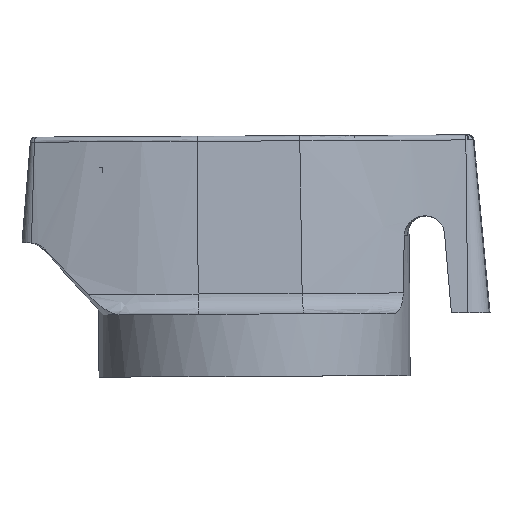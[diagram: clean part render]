
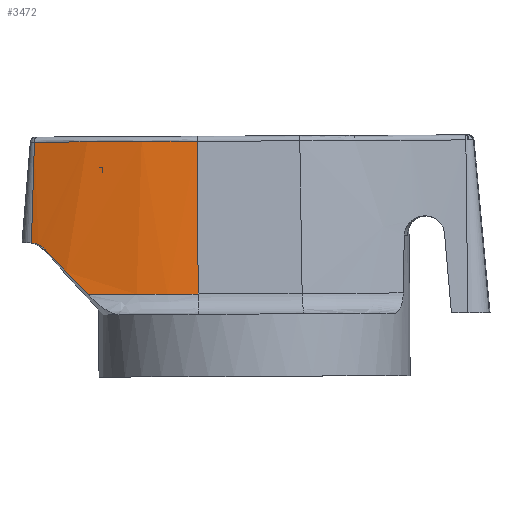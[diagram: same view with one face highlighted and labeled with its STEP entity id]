
A CAD part, left-side view. The second image highlights one B-rep face of the part: STEP entity #3472.
In plain terms, the highlighted free-form (B-spline) face has degree [1, 3] with [2, 9] control points.
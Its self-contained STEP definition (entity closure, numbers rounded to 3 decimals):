
#58 = CARTESIAN_POINT ( 'NONE',  ( -19.099, -2.641, 11.806 ) ) ;
#155 = VERTEX_POINT ( 'NONE', #3368 ) ;
#183 = CARTESIAN_POINT ( 'NONE',  ( -5.01, -4.583, 18.629 ) ) ;
#190 = CARTESIAN_POINT ( 'NONE',  ( -14.918, -3.161, 21.144 ) ) ;
#216 = CARTESIAN_POINT ( 'NONE',  ( -5.838, -5.573, 7.426 ) ) ;
#329 = CARTESIAN_POINT ( 'NONE',  ( -4.951, -5.726, 5.558 ) ) ;
#351 = CARTESIAN_POINT ( 'NONE',  ( -4.898, -5.725, 5.558 ) ) ;
#370 = VERTEX_POINT ( 'NONE', #3719 ) ;
#374 = CARTESIAN_POINT ( 'NONE',  ( -7.53, -4.07, 24.842 ) ) ;
#412 = EDGE_CURVE ( 'NONE', #2731, #155, #2199, .T. ) ;
#484 = CARTESIAN_POINT ( 'NONE',  ( -19.662, -1.575, 20.72 ) ) ;
#741 = B_SPLINE_CURVE_WITH_KNOTS ( 'NONE', 3,
 ( #1048, #3093, #6010, #2036, #58, #6080, #4516, #1515 ),
 .UNSPECIFIED., .F., .F.,
 ( 4, 2, 2, 4 ),
 ( 0., 0.001, 0.001, 0.001 ),
 .UNSPECIFIED. ) ;
#743 = CARTESIAN_POINT ( 'NONE',  ( -5.012, -4.363, 21.144 ) ) ;
#802 = CARTESIAN_POINT ( 'NONE',  ( -17.495, -3.4, 10.136 ) ) ;
#808 = CARTESIAN_POINT ( 'NONE',  ( -10.036, -3.842, 24.842 ) ) ;
#892 = CARTESIAN_POINT ( 'NONE',  ( -5.003, -5.726, 5.558 ) ) ;
#987 = CARTESIAN_POINT ( 'NONE',  ( -19.772, -1.825, 17.6 ) ) ;
#1048 = CARTESIAN_POINT ( 'NONE',  ( -19.964, -2.267, 12.094 ) ) ;
#1095 = B_SPLINE_SURFACE_WITH_KNOTS ( 'NONE', 1, 3, ( 
 ( #5912, #5828, #1900, #3809, #1843, #892, #329, #351, #5415 ),
 ( #3375, #2338, #4358, #808, #374, #4905, #4379, #3357, #2845 ) ),
 .UNSPECIFIED., .F., .F., .F.,
 ( 2, 2 ),
 ( 4, 2, 3, 4 ),
 ( 0., 1. ),
 ( 0., 0.5, 1., 1.01 ),
 .UNSPECIFIED. ) ;
#1155 = CARTESIAN_POINT ( 'NONE',  ( -19.647, -1.541, 21.144 ) ) ;
#1189 = CARTESIAN_POINT ( 'NONE',  ( -9.164, -5.396, 7.426 ) ) ;
#1208 = CARTESIAN_POINT ( 'NONE',  ( -8.333, -5.467, 7.426 ) ) ;
#1237 = B_SPLINE_CURVE_WITH_KNOTS ( 'NONE', 3,
 ( #2538, #5996, #484, #2000, #3986, #987, #2494, #4482, #6018, #3005 ),
 .UNSPECIFIED., .F., .F.,
 ( 4, 3, 3, 4 ),
 ( 0., 0.001, 0.005, 0.01 ),
 .UNSPECIFIED. ) ;
#1252 = CARTESIAN_POINT ( 'NONE',  ( -17.31, -2.442, 21.144 ) ) ;
#1265 = EDGE_CURVE ( 'NONE', #1295, #5243, #1237, .T. ) ;
#1295 = VERTEX_POINT ( 'NONE', #1155 ) ;
#1316 = CARTESIAN_POINT ( 'NONE',  ( -18.743, -2.805, 11.501 ) ) ;
#1515 = CARTESIAN_POINT ( 'NONE',  ( -18.743, -2.805, 11.501 ) ) ;
#1626 = CARTESIAN_POINT ( 'NONE',  ( -14.901, -4.383, 7.426 ) ) ;
#1728 = EDGE_CURVE ( 'NONE', #4140, #155, #6359, .T. ) ;
#1786 = CARTESIAN_POINT ( 'NONE',  ( -5.008, -5.023, 13.6 ) ) ;
#1843 = CARTESIAN_POINT ( 'NONE',  ( -7.624, -5.758, 5.558 ) ) ;
#1900 = CARTESIAN_POINT ( 'NONE',  ( -15.348, -4.527, 5.558 ) ) ;
#2000 = CARTESIAN_POINT ( 'NONE',  ( -19.67, -1.592, 20.509 ) ) ;
#2036 = CARTESIAN_POINT ( 'NONE',  ( -19.201, -2.596, 11.866 ) ) ;
#2126 = CARTESIAN_POINT ( 'NONE',  ( -5.004, -5.563, 7.426 ) ) ;
#2199 = B_SPLINE_CURVE_WITH_KNOTS ( 'NONE', 3,
 ( #2262, #183, #3676, #1786, #6365, #4307, #2369 ),
 .UNSPECIFIED., .F., .F.,
 ( 4, 3, 4 ),
 ( 0., 0.008, 0.014 ),
 .UNSPECIFIED. ) ;
#2262 = CARTESIAN_POINT ( 'NONE',  ( -5.012, -4.363, 21.144 ) ) ;
#2338 = CARTESIAN_POINT ( 'NONE',  ( -17.287, -2.172, 24.842 ) ) ;
#2362 = CARTESIAN_POINT ( 'NONE',  ( -14.901, -4.383, 7.426 ) ) ;
#2369 = CARTESIAN_POINT ( 'NONE',  ( -5.004, -5.563, 7.426 ) ) ;
#2494 = CARTESIAN_POINT ( 'NONE',  ( -19.823, -1.941, 16.145 ) ) ;
#2538 = CARTESIAN_POINT ( 'NONE',  ( -19.647, -1.541, 21.144 ) ) ;
#2624 = CARTESIAN_POINT ( 'NONE',  ( -13.285, -4.795, 7.426 ) ) ;
#2731 = VERTEX_POINT ( 'NONE', #4029 ) ;
#2759 = CARTESIAN_POINT ( 'NONE',  ( -7.516, -4.393, 21.144 ) ) ;
#2779 = CARTESIAN_POINT ( 'NONE',  ( -14.901, -4.383, 7.426 ) ) ;
#2845 = CARTESIAN_POINT ( 'NONE',  ( -4.873, -4.037, 24.842 ) ) ;
#3005 = CARTESIAN_POINT ( 'NONE',  ( -19.964, -2.267, 12.094 ) ) ;
#3093 = CARTESIAN_POINT ( 'NONE',  ( -19.734, -2.364, 12.075 ) ) ;
#3186 = CARTESIAN_POINT ( 'NONE',  ( -11.644, -5.1, 7.426 ) ) ;
#3268 = CARTESIAN_POINT ( 'NONE',  ( -10.02, -4.17, 21.144 ) ) ;
#3357 = CARTESIAN_POINT ( 'NONE',  ( -4.923, -4.038, 24.842 ) ) ;
#3368 = CARTESIAN_POINT ( 'NONE',  ( -5.004, -5.563, 7.426 ) ) ;
#3375 = CARTESIAN_POINT ( 'NONE',  ( -19.543, -1.234, 24.842 ) ) ;
#3472 = ADVANCED_FACE ( 'NONE', ( #4697 ), #1095, .F. ) ;
#3676 = CARTESIAN_POINT ( 'NONE',  ( -5.009, -4.803, 16.115 ) ) ;
#3719 = CARTESIAN_POINT ( 'NONE',  ( -18.743, -2.805, 11.501 ) ) ;
#3764 = CARTESIAN_POINT ( 'NONE',  ( -16.216, -3.926, 8.776 ) ) ;
#3779 = EDGE_CURVE ( 'NONE', #370, #4140, #5523, .T. ) ;
#3792 = ORIENTED_EDGE ( 'NONE', *, *, #412, .F. ) ;
#3809 = CARTESIAN_POINT ( 'NONE',  ( -10.245, -5.52, 5.558 ) ) ;
#3986 = CARTESIAN_POINT ( 'NONE',  ( -19.721, -1.708, 19.054 ) ) ;
#4029 = CARTESIAN_POINT ( 'NONE',  ( -5.012, -4.363, 21.144 ) ) ;
#4140 = VERTEX_POINT ( 'NONE', #2362 ) ;
#4307 = CARTESIAN_POINT ( 'NONE',  ( -5.005, -5.383, 9.484 ) ) ;
#4358 = CARTESIAN_POINT ( 'NONE',  ( -14.913, -2.893, 24.842 ) ) ;
#4379 = CARTESIAN_POINT ( 'NONE',  ( -4.973, -4.038, 24.842 ) ) ;
#4404 = B_SPLINE_CURVE_WITH_KNOTS ( 'NONE', 3,
 ( #743, #2759, #3268, #4722, #190, #1252, #5239, #6210 ),
 .UNSPECIFIED., .F., .F.,
 ( 4, 2, 2, 4 ),
 ( 0., 0.008, 0.011, 0.015 ),
 .UNSPECIFIED. ) ;
#4407 = EDGE_CURVE ( 'NONE', #2731, #1295, #4404, .T. ) ;
#4482 = CARTESIAN_POINT ( 'NONE',  ( -19.87, -2.05, 14.794 ) ) ;
#4516 = CARTESIAN_POINT ( 'NONE',  ( -18.824, -2.766, 11.589 ) ) ;
#4680 = EDGE_LOOP ( 'NONE', ( #3792, #4917, #4968, #4801, #6073, #5909 ) ) ;
#4697 = FACE_OUTER_BOUND ( 'NONE', #4680, .T. ) ;
#4722 = CARTESIAN_POINT ( 'NONE',  ( -13.706, -3.459, 21.144 ) ) ;
#4801 = ORIENTED_EDGE ( 'NONE', *, *, #6350, .T. ) ;
#4905 = CARTESIAN_POINT ( 'NONE',  ( -5.024, -4.039, 24.842 ) ) ;
#4917 = ORIENTED_EDGE ( 'NONE', *, *, #4407, .T. ) ;
#4968 = ORIENTED_EDGE ( 'NONE', *, *, #1265, .T. ) ;
#5130 = CARTESIAN_POINT ( 'NONE',  ( -6.67, -5.556, 7.426 ) ) ;
#5239 = CARTESIAN_POINT ( 'NONE',  ( -18.491, -2.021, 21.144 ) ) ;
#5243 = VERTEX_POINT ( 'NONE', #6272 ) ;
#5415 = CARTESIAN_POINT ( 'NONE',  ( -4.846, -5.724, 5.558 ) ) ;
#5523 = B_SPLINE_CURVE_WITH_KNOTS ( 'NONE', 3,
 ( #1316, #802, #3764, #2779 ),
 .UNSPECIFIED., .F., .F.,
 ( 4, 4 ),
 ( 0., 0.006 ),
 .UNSPECIFIED. ) ;
#5828 = CARTESIAN_POINT ( 'NONE',  ( -17.831, -3.774, 5.558 ) ) ;
#5909 = ORIENTED_EDGE ( 'NONE', *, *, #1728, .T. ) ;
#5912 = CARTESIAN_POINT ( 'NONE',  ( -20.191, -2.792, 5.558 ) ) ;
#5996 = CARTESIAN_POINT ( 'NONE',  ( -19.655, -1.558, 20.932 ) ) ;
#6010 = CARTESIAN_POINT ( 'NONE',  ( -19.514, -2.459, 12.016 ) ) ;
#6018 = CARTESIAN_POINT ( 'NONE',  ( -19.917, -2.158, 13.444 ) ) ;
#6073 = ORIENTED_EDGE ( 'NONE', *, *, #3779, .T. ) ;
#6080 = CARTESIAN_POINT ( 'NONE',  ( -18.911, -2.726, 11.668 ) ) ;
#6210 = CARTESIAN_POINT ( 'NONE',  ( -19.647, -1.541, 21.144 ) ) ;
#6272 = CARTESIAN_POINT ( 'NONE',  ( -19.964, -2.267, 12.094 ) ) ;
#6350 = EDGE_CURVE ( 'NONE', #5243, #370, #741, .T. ) ;
#6359 = B_SPLINE_CURVE_WITH_KNOTS ( 'NONE', 3,
 ( #1626, #2624, #3186, #1189, #1208, #5130, #216, #2126 ),
 .UNSPECIFIED., .F., .F.,
 ( 4, 2, 2, 4 ),
 ( 0., 0.005, 0.007, 0.01 ),
 .UNSPECIFIED. ) ;
#6365 = CARTESIAN_POINT ( 'NONE',  ( -5.006, -5.203, 11.542 ) ) ;
